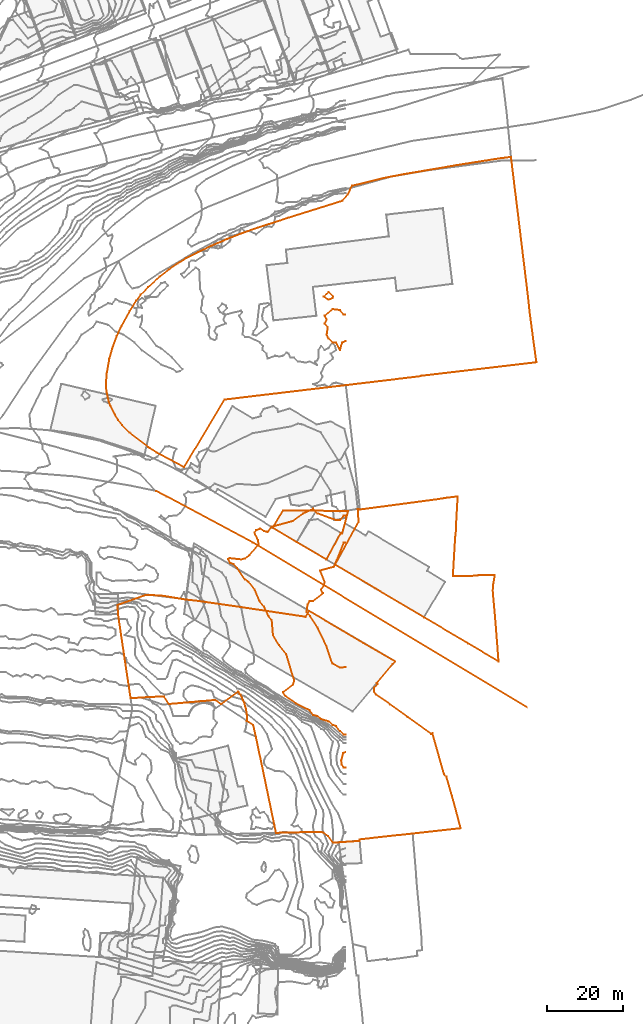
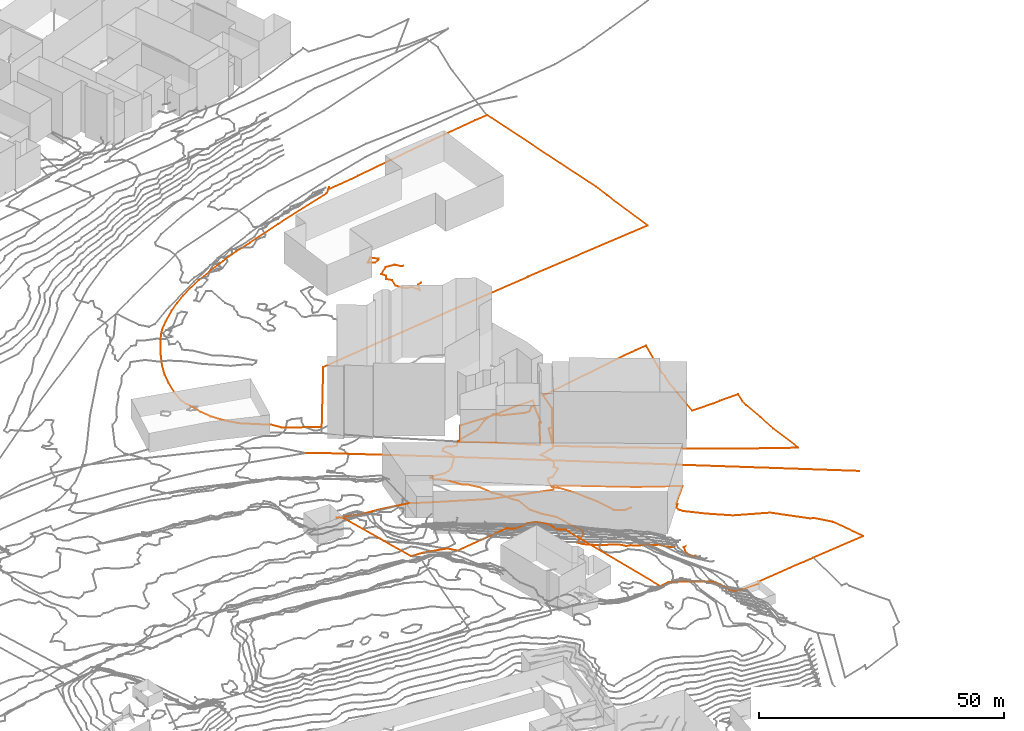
# Not in any storey, part 276 of 419: 10 proxies.
"""IFC2X3 model written with IfcOpenShell, lengths in metres."""

from ifc_helpers import new_model, entity, si_unit, frame, origin_with_axes, place, context, subcontext, project, element, save


model = new_model("IFC2X3")

# Units and contexts
model_context = context("Model", 3, precision=1e-05, world=origin_with_axes())
body_context = subcontext(model_context, "Body", "Model", "MODEL_VIEW")
ifc_project = project(units=[si_unit("AREAUNIT", "SQUARE_METRE"), si_unit("LENGTHUNIT", "METRE")], contexts=[model_context])

# Proxies
proxy_1_placement = place(None, frame((926.6920204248, 552.7976909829, 68.9), z_axis=(0.0, 0.0, 1.0), x_axis=(1.0, 0.0, 0.0)))
element("IfcBuildingElementProxy", 1, at=proxy_1_placement, Name="Route 64", ObjectType="NOTDEFINED", context=body_context, shape_type="GeometricCurveSet", body=[
    entity("IfcGeometricCurveSet", [entity("IfcPolyline", [entity("IfcCartesianPoint", [97.6, -56.9000000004, -4.1]), entity("IfcCartesianPoint", [25.4, -13.5, -1.6]), entity("IfcCartesianPoint", [2.8, -1.4000000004, -0.1]), entity("IfcCartesianPoint", [0.0, 0.0, 0.0])])]),
])
proxy_2_placement = place(None, frame((973.7820204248, 533.4276909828, 65.9456987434), z_axis=(0.0, 0.0, 1.0), x_axis=(1.0, 0.0, 0.0)))
element("IfcBuildingElementProxy", 2, at=proxy_2_placement, Name="Cadastre 0", ObjectType="NOTDEFINED", context=body_context, shape_type="GeometricCurveSet", body=[
    entity("IfcGeometricCurveSet", [entity("IfcPolyline", [entity("IfcCartesianPoint", [6.6, 14.5099999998, 1.7569002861]), entity("IfcCartesianPoint", [26.5699999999, 17.1699999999, 2.8043012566]), entity("IfcCartesianPoint", [29.5399999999, 17.6200000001, 2.8043012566]), entity("IfcCartesianPoint", [32.2799999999, 17.96, 2.8043012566]), entity("IfcCartesianPoint", [31.88, 10.7699999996, 0.4183011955]), entity("IfcCartesianPoint", [31.8999999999, 9.6099999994, 0.3874994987]), entity("IfcCartesianPoint", [31.64, 7.29, 0.1062998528]), entity("IfcCartesianPoint", [31.51, 5.25, 0.0226999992]), entity("IfcCartesianPoint", [31.0299999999, -3.0200000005, -0.2150954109]), entity("IfcCartesianPoint", [35.99, -2.96, -0.2114955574]), entity("IfcCartesianPoint", [37.76, -2.7999999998, -0.201895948]), entity("IfcCartesianPoint", [42.0399999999, -2.6900000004, -0.1952962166]), entity("IfcCartesianPoint", [41.62, -5.29, -0.255696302]), entity("IfcCartesianPoint", [41.51, -6.7700000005, -0.2334972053]), entity("IfcCartesianPoint", [41.96, -11.8900000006, -0.3087010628]), entity("IfcCartesianPoint", [42.35, -16.4100000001, -0.5071013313]), entity("IfcCartesianPoint", [43.0399999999, -25.4800000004, -0.0461999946]), entity("IfcCartesianPoint", [35.01, -20.71, -0.3080974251]), entity("IfcCartesianPoint", [23.4299999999, -13.8600000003, -0.4005980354]), entity("IfcCartesianPoint", [10.63, -6.2700000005, -0.248496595]), entity("IfcCartesianPoint", [0.0, 0.0, 0.0]), entity("IfcCartesianPoint", [5.12, 9.3700000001, 0.356300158]), entity("IfcCartesianPoint", [6.24, 11.2699999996, 0.4743009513]), entity("IfcCartesianPoint", [6.0, 14.6399999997, 1.8465996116]), entity("IfcCartesianPoint", [6.6, 14.5099999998, 1.7569002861])])]),
])
proxy_3_placement = place(None, frame((957.4320204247, 543.1376909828, 66.8408308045), z_axis=(0.0, 0.0, 1.0), x_axis=(1.0, 0.0, 0.0)))
element("IfcBuildingElementProxy", 3, at=proxy_3_placement, Name="Cadastre 2", ObjectType="NOTDEFINED", context=body_context, shape_type="GeometricCurveSet", body=[
    entity("IfcGeometricCurveSet", [entity("IfcPolyline", [entity("IfcCartesianPoint", [14.1000000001, -8.3799999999, -0.6939844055]), entity("IfcCartesianPoint", [6.2400000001, -3.7800000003, -0.1515374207]), entity("IfcCartesianPoint", [0.0, 0.0, 0.0]), entity("IfcCartesianPoint", [2.65, 4.5800000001, 0.3567376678]), entity("IfcCartesianPoint", [8.5800000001, 4.5800000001, 0.1379706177]), entity("IfcCartesianPoint", [11.4600000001, 4.5099999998, 0.2084192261]), entity("IfcCartesianPoint", [15.8500000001, 4.3799999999, 0.7627335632]), entity("IfcCartesianPoint", [19.37, 4.4299999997, 0.6064701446]), entity("IfcCartesianPoint", [19.8100000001, 4.4500000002, 0.6202700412]), entity("IfcCartesianPoint", [19.3400000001, 2.6699999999, -0.2357329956]), entity("IfcCartesianPoint", [18.9500000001, 1.1200000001, -0.4780306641]), entity("IfcCartesianPoint", [18.2100000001, -1.54, -0.6948286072]), entity("IfcCartesianPoint", [17.8500000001, -1.3799999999, -0.5965290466]), entity("IfcCartesianPoint", [14.1000000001, -8.3799999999, -0.6939844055])])]),
])
proxy_4_placement = place(None, frame((913.5320204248, 580.8676909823, 69.5993983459), z_axis=(0.0, 0.0, 1.0), x_axis=(1.0, 0.0, 0.0)))
element("IfcBuildingElementProxy", 4, at=proxy_4_placement, Name="Cadastre 5", ObjectType="NOTDEFINED", context=body_context, shape_type="GeometricCurveSet", body=[
    entity("IfcGeometricCurveSet", [entity("IfcPolyline", [entity("IfcCartesianPoint", [106.5699999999, 59.8100000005, -2.4821961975]), entity("IfcCartesianPoint", [111.0599999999, 22.9900000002, 0.416000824]), entity("IfcCartesianPoint", [111.4399999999, 19.3000000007, 0.4136985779]), entity("IfcCartesianPoint", [113.23, 5.8100000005, 0.4334010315]), entity("IfcCartesianPoint", [83.0299999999, 2.25, 0.4550001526]), entity("IfcCartesianPoint", [82.83, 2.1400000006, 0.4528005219]), entity("IfcCartesianPoint", [63.13, -0.21, 0.324800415]), entity("IfcCartesianPoint", [31.1599999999, -4.0199999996, -0.1617501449]), entity("IfcCartesianPoint", [20.5399999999, -21.7999999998, -0.6046428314]), entity("IfcCartesianPoint", [13.36, -17.9499999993, -0.5239591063]), entity("IfcCartesianPoint", [11.5399999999, -16.7599999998, 0.1008171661]), entity("IfcCartesianPoint", [11.0399999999, -16.4399999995, 0.077832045]), entity("IfcCartesianPoint", [6.1699999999, -12.6899999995, -0.1369569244]), entity("IfcCartesianPoint", [4.2999999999, -10.7199999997, -0.0207987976]), entity("IfcCartesianPoint", [3.26, -9.3699999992, 0.0196018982]), entity("IfcCartesianPoint", [2.35, -7.9299999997, 0.0426027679]), entity("IfcCartesianPoint", [1.25, -5.7799999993, 0.2382573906]), entity("IfcCartesianPoint", [0.74, -4.4099999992, 0.3632112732]), entity("IfcCartesianPoint", [0.2799999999, -2.4399999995, 0.3345048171]), entity("IfcCartesianPoint", [0.14, -1.7999999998, 0.1588932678]), entity("IfcCartesianPoint", [0.0, 0.0, 0.0]), entity("IfcCartesianPoint", [0.21, 2.79, 0.0106719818]), entity("IfcCartesianPoint", [0.89, 6.6000000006, 0.0089019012]), entity("IfcCartesianPoint", [1.72, 9.7200000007, 0.0202650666]), entity("IfcCartesianPoint", [2.85, 12.7300000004, 0.1314634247]), entity("IfcCartesianPoint", [4.09, 15.3800000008, 0.6431615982]), entity("IfcCartesianPoint", [6.26, 19.3000000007, 0.4298217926]), entity("IfcCartesianPoint", [7.95, 21.9800000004, 0.4115927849]), entity("IfcCartesianPoint", [9.1799999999, 23.5700000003, 0.3714030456]), entity("IfcCartesianPoint", [11.09, 25.5600000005, 0.3005851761]), entity("IfcCartesianPoint", [14.13, 28.3200000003, 0.2916035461]), entity("IfcCartesianPoint", [16.4299999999, 30.1400000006, 0.2808326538]), entity("IfcCartesianPoint", [18.88, 31.8300000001, 0.2819025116]), entity("IfcCartesianPoint", [21.12, 33.1699999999, 0.3625926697]), entity("IfcCartesianPoint", [24.22, 34.7800000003, 0.3667001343]), entity("IfcCartesianPoint", [27.96, 36.5500000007, 0.3927799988]), entity("IfcCartesianPoint", [31.9099999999, 38.2400000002, 0.3900282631]), entity("IfcCartesianPoint", [35.9399999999, 39.8200000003, 0.4176024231]), entity("IfcCartesianPoint", [40.01, 41.2600000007, 0.2704054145]), entity("IfcCartesianPoint", [48.1, 43.8500000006, 0.5370003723]), entity("IfcCartesianPoint", [62.1899999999, 48.3000000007, 0.547600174]), entity("IfcCartesianPoint", [63.59, 49.8700000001, 0.6773997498]), entity("IfcCartesianPoint", [64.74, 52.2300000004, -1.7793978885]), entity("IfcCartesianPoint", [73.0699999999, 54.2600000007, -2.496699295]), entity("IfcCartesianPoint", [78.0399999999, 55.2300000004, -2.5274005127]), entity("IfcCartesianPoint", [92.4199999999, 57.6800000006, -2.490898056]), entity("IfcCartesianPoint", [103.5399999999, 59.4400000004, -2.4811959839]), entity("IfcCartesianPoint", [106.5699999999, 59.8100000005, -2.4821961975])])]),
])
proxy_5_placement = place(None, frame((916.5920204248, 522.837690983, 74.5547979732), z_axis=(0.0, 0.0, 1.0), x_axis=(1.0, 0.0, 0.0)))
element("IfcBuildingElementProxy", 5, at=proxy_5_placement, Name="Cadastre 26", ObjectType="NOTDEFINED", context=body_context, shape_type="GeometricCurveSet", body=[
    entity("IfcGeometricCurveSet", [entity("IfcPolyline", [entity("IfcCartesianPoint", [55.42, -60.8399999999, 0.8314413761]), entity("IfcCartesianPoint", [54.02, -59.8799999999, 1.3800105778]), entity("IfcCartesianPoint", [53.46, -59.7000000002, 1.5227865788]), entity("IfcCartesianPoint", [43.73, -59.9000000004, 5.0051945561]), entity("IfcCartesianPoint", [41.7000000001, -59.9700000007, 4.6872111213]), entity("IfcCartesianPoint", [36.42, -34.7200000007, 3.6161547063]), entity("IfcCartesianPoint", [35.71, -31.6500000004, 3.6831199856]), entity("IfcCartesianPoint", [34.0, -30.5300000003, 3.6953041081]), entity("IfcCartesianPoint", [34.03, -29.8200000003, 3.6829868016]), entity("IfcCartesianPoint", [34.01, -29.0100000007, 3.5824284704]), entity("IfcCartesianPoint", [33.9400000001, -28.2000000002, 3.3898399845]), entity("IfcCartesianPoint", [33.8, -27.4000000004, 3.1387226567]), entity("IfcCartesianPoint", [33.6, -26.6100000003, 2.8881827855]), entity("IfcCartesianPoint", [33.36, -25.8399999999, 2.6414430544]), entity("IfcCartesianPoint", [33.05, -25.0800000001, 2.4398252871]), entity("IfcCartesianPoint", [32.71, -24.3399999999, 2.197853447]), entity("IfcCartesianPoint", [32.3, -23.6400000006, 1.7762016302]), entity("IfcCartesianPoint", [31.86, -22.96, 1.3411456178]), entity("IfcCartesianPoint", [31.72, -22.7700000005, 1.2172537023]), entity("IfcCartesianPoint", [27.27, -26.1000000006, 3.5620594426]), entity("IfcCartesianPoint", [25.61, -25.0100000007, 3.5348257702]), entity("IfcCartesianPoint", [13.49, -26.0800000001, 2.8704299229]), entity("IfcCartesianPoint", [12.1900000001, -24.0500000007, 2.6073423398]), entity("IfcCartesianPoint", [6.09, -24.3600000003, 3.8526793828]), entity("IfcCartesianPoint", [3.4400000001, -24.5600000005, 4.0554734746]), entity("IfcCartesianPoint", [0.15, -2.4900000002, 1.3432765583]), entity("IfcCartesianPoint", [0.0, 0.0, 0.0]), entity("IfcCartesianPoint", [7.34, 2.5999999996, -3.310099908]), entity("IfcCartesianPoint", [11.37, 2.4799999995, -3.487541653]), entity("IfcCartesianPoint", [17.9, 1.4100000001, -3.5184473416]), entity("IfcCartesianPoint", [18.0600000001, 1.3899999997, -3.5741131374]), entity("IfcCartesianPoint", [21.62, 0.9799999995, -4.4436024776]), entity("IfcCartesianPoint", [35.8200000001, -1.0800000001, -7.2441571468]), entity("IfcCartesianPoint", [49.42, -3.1299999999, -8.4645960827]), entity("IfcCartesianPoint", [50.3300000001, -1.5800000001, -8.6133612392]), entity("IfcCartesianPoint", [64.75, -10.0899999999, -8.9192968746]), entity("IfcCartesianPoint", [72.98, -14.8700000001, -8.6574992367]), entity("IfcCartesianPoint", [72.3200000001, -15.6100000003, -8.5777991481]), entity("IfcCartesianPoint", [68.14, -20.5700000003, -8.0604955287]), entity("IfcCartesianPoint", [68.38, -20.7700000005, -8.0384969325]), entity("IfcCartesianPoint", [67.52, -21.79, -7.9297994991]), entity("IfcCartesianPoint", [67.49, -22.79, -7.8577967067]), entity("IfcCartesianPoint", [68.0600000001, -23.6400000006, -7.8627981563]), entity("IfcCartesianPoint", [71.74, -26.1699999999, -8.2362012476]), entity("IfcCartesianPoint", [76.3100000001, -29.4700000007, -8.3032978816]), entity("IfcCartesianPoint", [82.4500000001, -33.9199999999, -7.0831979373]), entity("IfcCartesianPoint", [82.8100000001, -33.7600000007, -7.3103976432]), entity("IfcCartesianPoint", [85.88, -44.46, -3.3259967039]), entity("IfcCartesianPoint", [86.5, -45.2000000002, -3.0003948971]), entity("IfcCartesianPoint", [87.99, -50.2300000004, -1.4204994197]), entity("IfcCartesianPoint", [90.25, -58.6900000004, -0.5822981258]), entity("IfcCartesianPoint", [89.97, -58.7700000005, -0.5782978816]), entity("IfcCartesianPoint", [77.65, -60.1400000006, -0.6707960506]), entity("IfcCartesianPoint", [75.21, -60.4100000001, -0.7193961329]), entity("IfcCartesianPoint", [71.64, -60.7700000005, -0.7544974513]), entity("IfcCartesianPoint", [63.71, -61.6800000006, -0.8939987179]), entity("IfcCartesianPoint", [63.6900000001, -62.0800000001, -1.0259963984]), entity("IfcCartesianPoint", [58.2000000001, -62.4500000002, -0.8218574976]), entity("IfcCartesianPoint", [56.6800000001, -62.54, -0.1246005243]), entity("IfcCartesianPoint", [55.42, -60.8399999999, 0.8314413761])])]),
])
proxy_6_placement = place(None, frame((970.758602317, 603.8976909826, 70.0), z_axis=(0.0, 0.0, 1.0), x_axis=(1.0, 0.0, 0.0)))
element("IfcBuildingElementProxy", 6, at=proxy_6_placement, Name="Contour 70.0 m", ObjectType="NOTDEFINED", context=body_context, shape_type="GeometricCurveSet", body=[
    entity("IfcGeometricCurveSet", [entity("IfcPolyline", [entity("IfcCartesianPoint", [2.3334181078, -0.3334181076, 0.0]), entity("IfcCartesianPoint", [2.5834657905, 0.0, 0.0]), entity("IfcCartesianPoint", [1.3334181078, 1.2000305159, 0.0]), entity("IfcCartesianPoint", [0.0, 0.0, 0.0]), entity("IfcCartesianPoint", [1.3334181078, -0.7499523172, 0.0]), entity("IfcCartesianPoint", [2.3334181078, -0.3334181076, 0.0])])]),
])
proxy_7_placement = place(None, frame((971.0920704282, 598.8976909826, 70.0), z_axis=(0.0, 0.0, 1.0), x_axis=(1.0, 0.0, 0.0)))
element("IfcBuildingElementProxy", 7, at=proxy_7_placement, Name="Contour 70.0 m", ObjectType="NOTDEFINED", context=body_context, shape_type="GeometricCurveSet", body=[
    entity("IfcGeometricCurveSet", [entity("IfcPolyline", [entity("IfcCartesianPoint", [5.4999499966, 0.3334181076, 0.0]), entity("IfcCartesianPoint", [4.9999499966, 0.3334181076, 0.0]), entity("IfcCartesianPoint", [3.9999499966, 1.4999833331, 0.0]), entity("IfcCartesianPoint", [1.9999499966, 1.7499523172, 0.0]), entity("IfcCartesianPoint", [0.0, 0.0, 0.0]), entity("IfcCartesianPoint", [0.4999999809, -1.0, 0.0]), entity("IfcCartesianPoint", [4.99552e-05, -2.0, 0.0]), entity("IfcCartesianPoint", [0.7999194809, -3.0, 0.0]), entity("IfcCartesianPoint", [0.4999999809, -5.0, 0.0]), entity("IfcCartesianPoint", [1.0, -6.0, 0.0]), entity("IfcCartesianPoint", [1.9999499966, -6.9999499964, 0.0]), entity("IfcCartesianPoint", [2.9999499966, -6.999966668, 0.0]), entity("IfcCartesianPoint", [3.9999499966, -8.9999000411, 0.0]), entity("IfcCartesianPoint", [4.5713941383, -7.0, 0.0]), entity("IfcCartesianPoint", [5.4999499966, -6.666666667, 0.0])])]),
])
proxy_8_placement = place(None, frame((966.2587082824, 520.8976909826, 66.0), z_axis=(0.0, 0.0, 1.0), x_axis=(1.0, 0.0, 0.0)))
element("IfcBuildingElementProxy", 8, at=proxy_8_placement, Name="Contour 66.0 m", ObjectType="NOTDEFINED", context=body_context, shape_type="GeometricCurveSet", body=[
    entity("IfcGeometricCurveSet", [entity("IfcPolyline", [entity("IfcCartesianPoint", [10.3333121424, 18.3334181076, 0.0]), entity("IfcCartesianPoint", [9.8333121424, 18.3334181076, 0.0]), entity("IfcCartesianPoint", [7.2618680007, 12.0, 0.0]), entity("IfcCartesianPoint", [3.6332816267, 11.0, 0.0]), entity("IfcCartesianPoint", [4.8333232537, 8.0, 0.0]), entity("IfcCartesianPoint", [4.5832644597, 7.0, 0.0]), entity("IfcCartesianPoint", [3.8333454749, 6.0, 0.0]), entity("IfcCartesianPoint", [4.3333621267, 5.0, 0.0]), entity("IfcCartesianPoint", [1.8333121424, 2.9999000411, 0.0]), entity("IfcCartesianPoint", [0.8333121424, 2.9999000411, 0.0]), entity("IfcCartesianPoint", [0.3333621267, 2.0, 0.0]), entity("IfcCartesianPoint", [0.0, 0.0, 0.0]), entity("IfcCartesianPoint", [1.0, -1.0, 0.0]), entity("IfcCartesianPoint", [2.9583359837, -4.0, 0.0]), entity("IfcCartesianPoint", [5.3333246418, -9.0, 0.0]), entity("IfcCartesianPoint", [6.8333121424, -13.4285558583, 0.0]), entity("IfcCartesianPoint", [8.8333121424, -14.5999847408, 0.0]), entity("IfcCartesianPoint", [10.3333121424, -14.4000152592, 0.0])])]),
])
proxy_9_placement = place(None, frame((945.6634645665, 534.8976909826, 67.0), z_axis=(0.0, 0.0, 1.0), x_axis=(1.0, 0.0, 0.0)))
element("IfcBuildingElementProxy", 9, at=proxy_9_placement, Name="Contour 67.0 m", ObjectType="NOTDEFINED", context=body_context, shape_type="GeometricCurveSet", body=[
    entity("IfcGeometricCurveSet", [entity("IfcPolyline", [entity("IfcCartesianPoint", [30.9285558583, 11.4999984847, 0.0]), entity("IfcCartesianPoint", [30.4285558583, 11.4999984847, 0.0]), entity("IfcCartesianPoint", [29.4285558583, 10.3275893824, 0.0]), entity("IfcCartesianPoint", [28.4285558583, 10.2439010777, 0.0]), entity("IfcCartesianPoint", [23.505492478, 12.0, 0.0]), entity("IfcCartesianPoint", [22.4285558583, 13.2499761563, 0.0]), entity("IfcCartesianPoint", [19.678603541, 12.0, 0.0]), entity("IfcCartesianPoint", [16.9285808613, 10.0, 0.0]), entity("IfcCartesianPoint", [11.4285558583, 8.4999900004, 0.0]), entity("IfcCartesianPoint", [10.4285558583, 7.1666878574, 0.0]), entity("IfcCartesianPoint", [9.4285558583, 7.3332909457, 0.0]), entity("IfcCartesianPoint", [8.4285558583, 7.9999750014, 0.0]), entity("IfcCartesianPoint", [7.4285558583, 7.5714441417, 0.0]), entity("IfcCartesianPoint", [6.9285683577, 7.0, 0.0]), entity("IfcCartesianPoint", [7.8571117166, 5.0, 0.0]), entity("IfcCartesianPoint", [8.0285863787, 4.0, 0.0]), entity("IfcCartesianPoint", [5.5952437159, 1.0, 0.0]), entity("IfcCartesianPoint", [4.4285558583, 0.2000305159, 0.0]), entity("IfcCartesianPoint", [3.4285558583, -0.1000228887, 0.0]), entity("IfcCartesianPoint", [0.4285558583, 0.2307647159, 0.0]), entity("IfcCartesianPoint", [0.0, 0.0, 0.0]), entity("IfcCartesianPoint", [0.5952437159, -1.0, 0.0]), entity("IfcCartesianPoint", [1.4285558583, -1.357166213, 0.0]), entity("IfcCartesianPoint", [2.4285558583, -2.3846244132, 0.0]), entity("IfcCartesianPoint", [4.4285558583, -5.3636426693, 0.0]), entity("IfcCartesianPoint", [5.428564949, -6.0, 0.0]), entity("IfcCartesianPoint", [7.0285558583, -8.0, 0.0]), entity("IfcCartesianPoint", [8.2619103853, -11.0, 0.0]), entity("IfcCartesianPoint", [9.4285558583, -12.4285558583, 0.0]), entity("IfcCartesianPoint", [10.6285253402, -15.0, 0.0]), entity("IfcCartesianPoint", [11.4841231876, -16.0, 0.0]), entity("IfcCartesianPoint", [11.8285711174, -20.0, 0.0]), entity("IfcCartesianPoint", [13.4285558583, -22.6667090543, 0.0]), entity("IfcCartesianPoint", [15.303532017, -25.0, 0.0]), entity("IfcCartesianPoint", [17.428564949, -32.0, 0.0]), entity("IfcCartesianPoint", [17.0535796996, -33.0, 0.0]), entity("IfcCartesianPoint", [14.4285891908, -35.0, 0.0]), entity("IfcCartesianPoint", [15.0685705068, -36.0, 0.0]), entity("IfcCartesianPoint", [17.8324028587, -38.0, 0.0]), entity("IfcCartesianPoint", [21.4285558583, -39.7727262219, 0.0]), entity("IfcCartesianPoint", [22.4285558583, -41.016260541, 0.0]), entity("IfcCartesianPoint", [23.4285558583, -41.2797212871, 0.0]), entity("IfcCartesianPoint", [24.4285558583, -42.080357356, 0.0]), entity("IfcCartesianPoint", [26.4285558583, -42.6914891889, 0.0]), entity("IfcCartesianPoint", [27.4285558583, -43.6041691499, 0.0]), entity("IfcCartesianPoint", [28.4285558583, -43.9054055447, 0.0]), entity("IfcCartesianPoint", [29.4285558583, -45.2936524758, 0.0]), entity("IfcCartesianPoint", [30.4285558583, -46.1478868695, 0.0]), entity("IfcCartesianPoint", [30.9285558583, -46.1478868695, 0.0])])]),
])
proxy_10_placement = place(None, frame((975.4420188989, 481.8976909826, 70.0), z_axis=(0.0, 0.0, 1.0), x_axis=(1.0, 0.0, 0.0)))
element("IfcBuildingElementProxy", 10, at=proxy_10_placement, Name="Contour 70.0 m", ObjectType="NOTDEFINED", context=body_context, shape_type="GeometricCurveSet", body=[
    entity("IfcGeometricCurveSet", [entity("IfcPolyline", [entity("IfcCartesianPoint", [1.1500015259, 2.2264175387, 0.0]), entity("IfcCartesianPoint", [0.5036566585, 2.0, 0.0]), entity("IfcCartesianPoint", [0.0, 0.0, 0.0]), entity("IfcCartesianPoint", [0.0914408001, -1.0, 0.0]), entity("IfcCartesianPoint", [0.6500015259, -1.8157907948, 0.0]), entity("IfcCartesianPoint", [1.1500015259, -1.8157907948, 0.0])])]),
])

save(model, "model.ifc")
